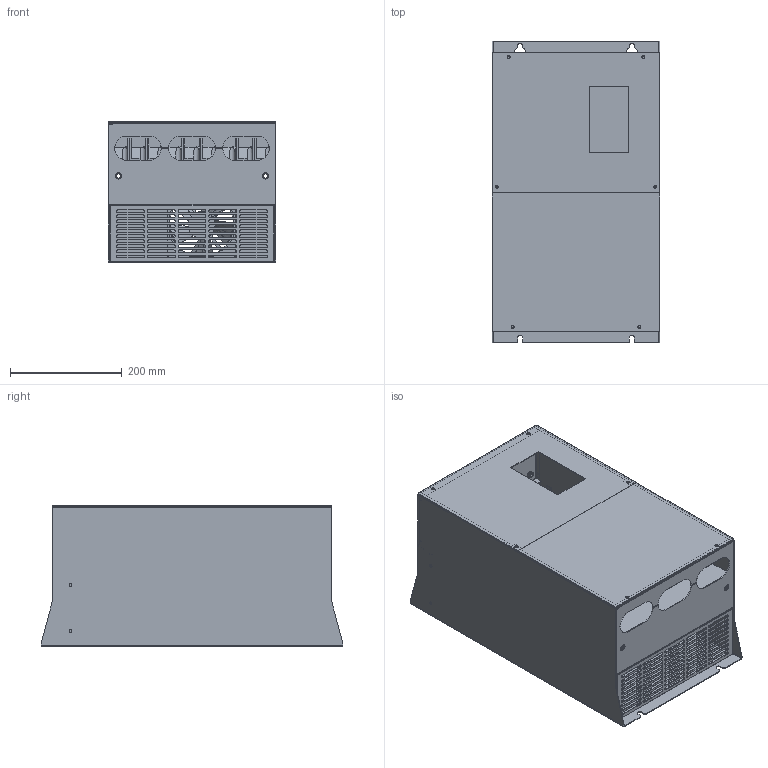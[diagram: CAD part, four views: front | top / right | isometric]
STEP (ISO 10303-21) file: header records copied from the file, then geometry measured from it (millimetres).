
FILE_DESCRIPTION((''),'2;1');
FILE_NAME('S16_ASM','2016-05-10T',('Administrator'),(''),'PRO/ENGINEER BY PARAMETRIC TECHNOLOGY CORPORATION, 2011310','PRO/ENGINEER BY PARAMETRIC TECHNOLOGY CORPORATION, 2011310','');
FILE_SCHEMA(('CONFIG_CONTROL_DESIGN'));
Length unit declared in the file: millimetre
Products named in the file (17): S16JX02; S16JX04; S16JX06; S16JX01_ASM; S16JX03; S16JX10; S16JX11; S16JX17; S16JX15_ASM; S16JX19; S16JX16_ASM; S16ZP02_ASM; S16ZP01_ASM; 12038; TB-JNA360; S16-QJ_ASM; S16_ASM
Assembly tree (24 placements, depth 5):
  S16_ASM
    S16ZP01_ASM
      S16ZP02_ASM
        S16JX01_ASM
          S16JX02
          S16JX04
          S16JX06
        S16JX03
        S16JX10
        S16JX11
        S16JX15_ASM
          S16JX17
        S16JX16_ASM
          S16JX19
    S16-QJ_ASM
      12038
      TB-JNA360  x9
Bounding box: 300 x 540 x 252.5 mm (x, y, z)
Volume: 1693092.8 mm3; surface area: 1703213.7 mm2
Topology: 35 solids, 41 shells, 1347 faces, 3542 edges, 2281 vertices
Faces by surface type: plane 805, cylinder 494, bspline 32, cone 12, torus 4
Entity records: 28562 total; most frequent: CARTESIAN_POINT 6443, DIRECTION 4623, ORIENTED_EDGE 4406, EDGE_CURVE 2230, AXIS2_PLACEMENT_3D 1606, VECTOR 1411, LINE 1411, VERTEX_POINT 1410
